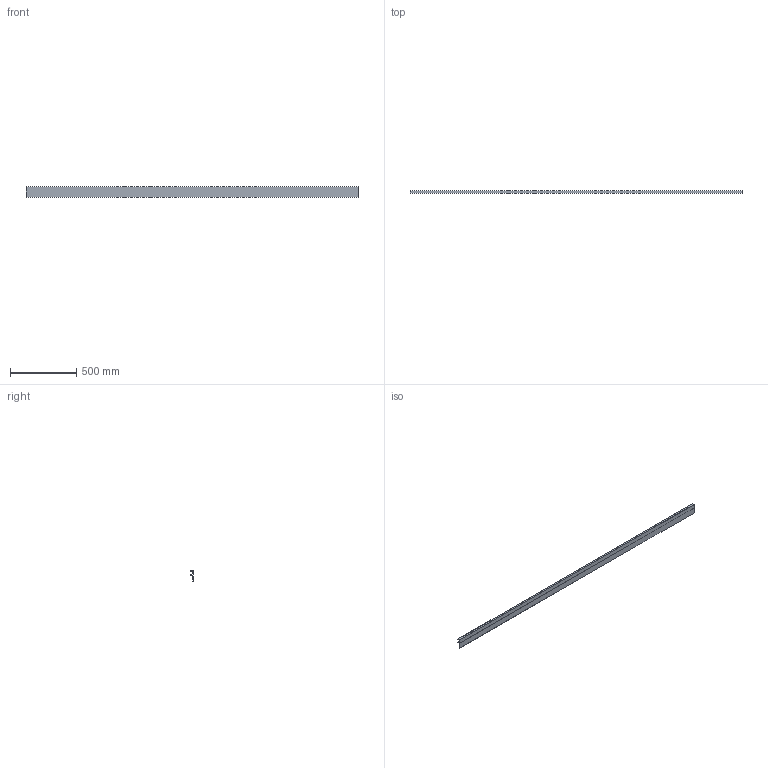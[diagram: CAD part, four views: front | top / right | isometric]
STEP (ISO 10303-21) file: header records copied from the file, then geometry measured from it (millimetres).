
FILE_DESCRIPTION(('STEP AP242'),'1');
FILE_NAME('OPO_65.082.12.stp','2026-01-30T20:52:59',(' '),(' '),'Spatial InterOp 3D',' ',' ');
FILE_SCHEMA(('AP242_MANAGED_MODEL_BASED_3D_ENGINEERING_MIM_LF {1 0 10303 442 1 1 4}'));
Length unit declared in the file: millimetre
Products named in the file (1): 1
Bounding box: 2500 x 15.5 x 79 mm (x, y, z)
Volume: 280000 mm3; surface area: 565224 mm2
Topology: 1 solids, 1 shells, 60 faces, 160 edges, 106 vertices
Faces by surface type: plane 40, cylinder 20
Entity records: 2364 total; most frequent: CARTESIAN_POINT 327, DIRECTION 322, ORIENTED_EDGE 320, EDGE_CURVE 160, LINE 120, VECTOR 120, VERTEX_POINT 106, AXIS2_PLACEMENT_3D 101
